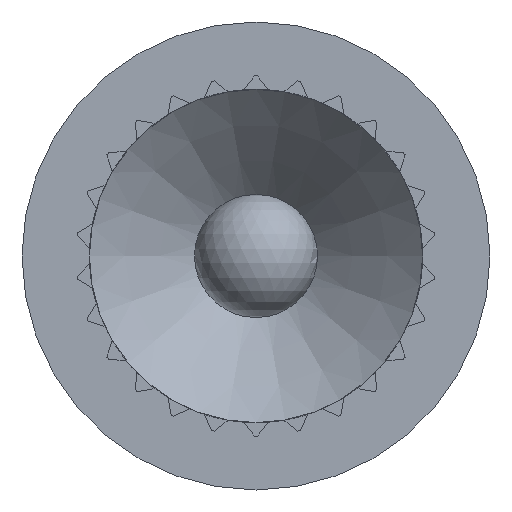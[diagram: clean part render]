
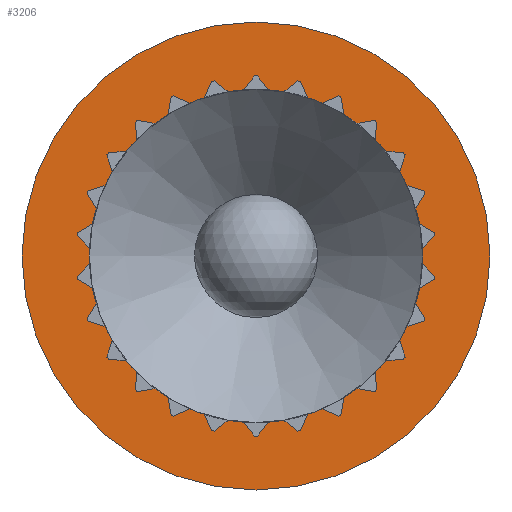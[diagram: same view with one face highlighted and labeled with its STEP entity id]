
A CAD part, left-side view. The second image highlights one B-rep face of the part: STEP entity #3206.
In plain terms, the highlighted planar face has unit normal (-1, 0, 0).
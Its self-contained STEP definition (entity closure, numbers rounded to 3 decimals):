
#19=FACE_BOUND($,#623,.T.);
#225=CIRCLE($,#3566,1.41);
#226=CIRCLE($,#3568,1.98);
#422=FACE_OUTER_BOUND($,#622,.T.);
#622=EDGE_LOOP($,(#2836));
#623=EDGE_LOOP($,(#2837));
#1478=VERTEX_POINT($,#5508);
#1479=VERTEX_POINT($,#5511);
#1934=EDGE_CURVE($,#1478,#1478,#225,.T.);
#1935=EDGE_CURVE($,#1479,#1479,#226,.T.);
#2836=ORIENTED_EDGE($,*,*,#1935,.F.);
#2837=ORIENTED_EDGE($,*,*,#1934,.T.);
#3013=PLANE($,#3567);
#3206=ADVANCED_FACE($,(#422,#19),#3013,.T.);
#3566=AXIS2_PLACEMENT_3D($,#5509,#4568,#4569);
#3567=AXIS2_PLACEMENT_3D($,#5510,#4570,#4571);
#3568=AXIS2_PLACEMENT_3D($,#5512,#4572,#4573);
#4568=DIRECTION('center_axis',(1.,0.,0.));
#4569=DIRECTION('ref_axis',(0.,1.,0.));
#4570=DIRECTION('center_axis',(-1.,0.,0.));
#4571=DIRECTION('ref_axis',(0.,0.,1.));
#4572=DIRECTION('center_axis',(1.,0.,0.));
#4573=DIRECTION('ref_axis',(0.,1.,0.));
#5508=CARTESIAN_POINT('',(7.16,1.41,0.));
#5509=CARTESIAN_POINT('Origin',(7.16,0.,0.));
#5510=CARTESIAN_POINT('Origin',(7.16,1.695,0.));
#5511=CARTESIAN_POINT('',(7.16,1.98,0.));
#5512=CARTESIAN_POINT('Origin',(7.16,0.,0.));
